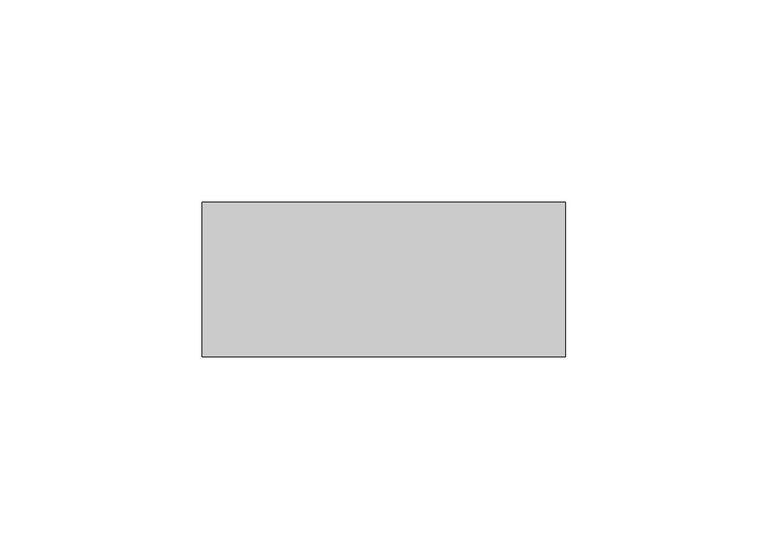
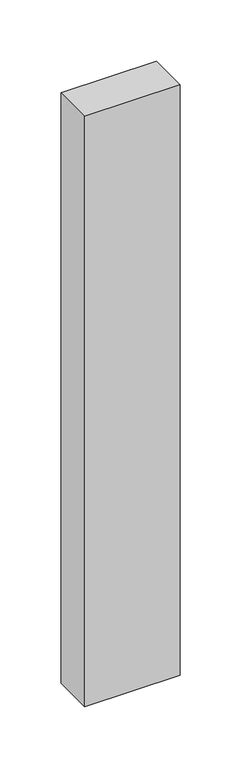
"""IFC4 building model written with IfcOpenShell, lengths in millimetres: proxy geometry, BASYS^CREDENZA 1_INTERNAL DETAILS-LEFT BOTTOM."""

from ifc_helpers import new_model, si_unit, frame, origin, place, context, project, spatial, polyline, outline, extrude, source, transform, mapped, element, save


def generic_models_c79cc1ee(model_context):
    return source(origin(), model_context, "Body", "SweptSolid", [
        extrude(outline(polyline([(108.74375, -668.5), (108.74375, -706.6), (19.05, -706.6), (19.05, -668.5), (108.74375, -668.5)])), frame((0.0, 0.0, -615.95), z_axis=(0.0, 0.0, 1.0), x_axis=(1.0, 0.0, 0.0)), (0.0, 0.0, 1.0), 587.375),
    ])


if __name__ == "__main__":
    model = new_model("IFC4")
    model_context = context("Model", 3, world=origin())
    ifc_project = project(units=[si_unit("LENGTHUNIT", "METRE", prefix="MILLI")], contexts=[model_context])
    site = spatial("IfcSite", under=ifc_project)
    building = spatial("IfcBuilding", under=site)
    placement = place(None, origin())
    generic_models_shape = generic_models_c79cc1ee(model_context)
    element("IfcBuildingElementProxy", 1, Name="BASYS^CREDENZA 1_INTERNAL DETAILS-LEFT BOTTOM", ObjectType="BASYS^CREDENZA 1_INTERNAL DETAILS-LEFT BOTTOM", at=placement, inside=building, context=model_context, shape_type="MappedRepresentation", body=[
        mapped(generic_models_shape, transform((0.0, 0.0, 0.0), x_axis=(1.0, 0.0, 0.0), y_axis=(0.0, 1.0, 0.0), z_axis=(0.0, 0.0, 1.0))),
    ])
    save(model, "model.ifc")
